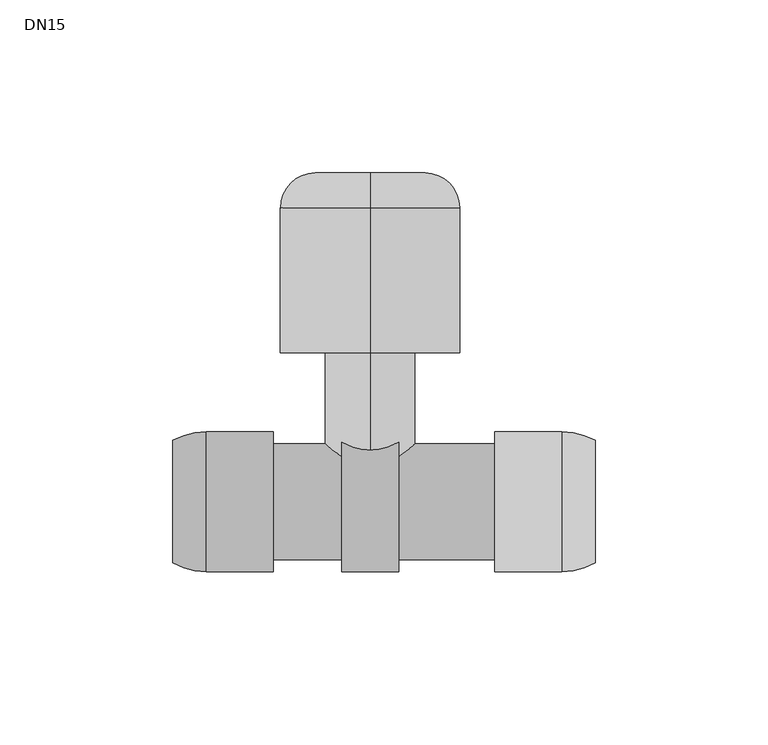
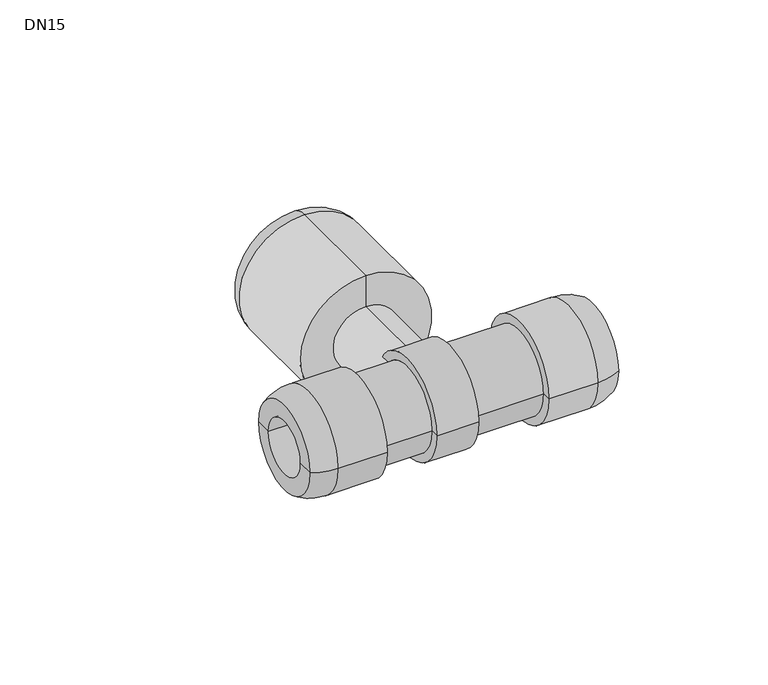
"""IFC4 building model written with IfcOpenShell, lengths in millimetres: valve geometry, Wavin_PipeAccessory_Hep2oStopcock : DN15."""

import ifcopenshell
import ifcopenshell.guid

model = None  # the IFC model being written
_history = None  # IfcOwnerHistory: only IFC2X3 demands one
_inside = {}  # id of a spatial element -> (the spatial element, [elements in it])
_under = {}  # id of a project, library or spatial element -> (it, [spatial elements below it])
_declared = {}  # id of a project -> (the project, [libraries it declares])
_typed = {}  # id of a type object -> (the type object, [elements of that type])
_made_of = {}  # id of a material, layer set ... -> (it, [elements and type objects made of it])


def new_model(schema):
    """Start an empty IFC model of exactly this schema.

    Asked for "IFC4X3", IfcOpenShell would pick the latest addendum, in which some entities
    have other attributes; the version numbers below select the first issue.
    IFC2X3 requires an IfcOwnerHistory on every rooted entity: one is made here for all.
    """
    global model, _history
    if schema == "IFC4X3":
        model = ifcopenshell.file(schema_version=(4, 3, 0, 0))
    else:
        model = ifcopenshell.file(schema=schema)
    _inside.clear()
    _under.clear()
    _declared.clear()
    _typed.clear()
    _made_of.clear()
    _history = None
    if model.schema == "IFC2X3":
        org = make("IfcOrganization", Name="unknown")
        user = make(
            "IfcPersonAndOrganization",
            ThePerson=make("IfcPerson", FamilyName="unknown"),
            TheOrganization=org,
        )
        app = make(
            "IfcApplication",
            ApplicationDeveloper=org,
            Version="unknown",
            ApplicationFullName="unknown",
            ApplicationIdentifier="unknown",
        )
        _history = make(
            "IfcOwnerHistory",
            OwningUser=user,
            OwningApplication=app,
            ChangeAction="ADDED",
            CreationDate=0,
        )
    return model


def make(cls, **values):
    """One entity of the class cls with the attributes given. An attribute that is None is left unset."""
    return model.create_entity(
        cls, **{name: value for name, value in values.items() if value is not None}
    )


def rooted(cls, **values):
    """An entity with a GlobalId (a new one), such as an element, a storey or a relation."""
    return make(cls, GlobalId=ifcopenshell.guid.new(), OwnerHistory=_history, **values)


def si_unit(unit_type, name, prefix=None):
    """IfcSIUnit, for example si_unit("LENGTHUNIT", "METRE", prefix="MILLI")."""
    return make("IfcSIUnit", UnitType=unit_type, Prefix=prefix, Name=name)


def assignment(units):
    """IfcUnitAssignment: the units of a project."""
    return None if units is None else make("IfcUnitAssignment", Units=units)


def point(xyz):
    """IfcCartesianPoint."""
    return None if xyz is None else make("IfcCartesianPoint", Coordinates=xyz)


def direction(xyz):
    """IfcDirection."""
    return None if xyz is None else make("IfcDirection", DirectionRatios=xyz)


def frame(location, z_axis=None, x_axis=None):
    """IfcAxis2Placement3D, a coordinate frame: its origin and axes. An axis left out is left unset."""
    return make(
        "IfcAxis2Placement3D",
        Location=point(location),
        Axis=direction(z_axis),
        RefDirection=direction(x_axis),
    )


def origin():
    """The frame at (0, 0, 0) with its axes left unset."""
    return frame((0.0, 0.0, 0.0))


def place(relative_to, where):
    """IfcLocalPlacement: puts the frame where relative to a parent placement (None: the world)."""
    return make(
        "IfcLocalPlacement", PlacementRelTo=relative_to, RelativePlacement=where
    )


def context(
    kind, dimensions, precision=None, world=None, true_north=None, identifier=None
):
    """IfcGeometricRepresentationContext, for example the 3D "Model" context."""
    return make(
        "IfcGeometricRepresentationContext",
        ContextIdentifier=identifier,
        ContextType=kind,
        CoordinateSpaceDimension=dimensions,
        Precision=precision,
        WorldCoordinateSystem=world,
        TrueNorth=true_north,
    )


def project(units=None, contexts=None):
    """IfcProject with its units and contexts."""
    return rooted(
        "IfcProject",
        Name="project",
        RepresentationContexts=contexts,
        UnitsInContext=assignment(units),
    )


def spatial(cls, under=None, at=None, **own):
    """A site, building, storey or space (cls), placed at a placement, below another one or the project."""
    s = rooted(cls, ObjectPlacement=at, **own)
    if under is not None:
        _under.setdefault(under.id(), (under, []))[1].append(s)
    return s


def polyline(points):
    """IfcPolyline through the points."""
    return make("IfcPolyline", Points=[point(p) for p in points])


def circle_curve(where, radius):
    """IfcCircle in the frame where."""
    return make("IfcCircle", Position=where, Radius=radius)


def ellipse_curve(where, semi_axis1, semi_axis2):
    """IfcEllipse in the frame where."""
    return make(
        "IfcEllipse", Position=where, SemiAxis1=semi_axis1, SemiAxis2=semi_axis2
    )


def trimmed(basis, trim1, trim2, sense, master):
    """IfcTrimmedCurve: the piece of a basis curve between two trims."""
    return make(
        "IfcTrimmedCurve",
        BasisCurve=basis,
        Trim1=trim1,
        Trim2=trim2,
        SenseAgreement=sense,
        MasterRepresentation=master,
    )


def shape(context_of_items, identifier, shape_type, items):
    """IfcShapeRepresentation: the items that make up one representation, for example the "Body"."""
    return make(
        "IfcShapeRepresentation",
        ContextOfItems=context_of_items,
        RepresentationIdentifier=identifier,
        RepresentationType=shape_type,
        Items=items,
    )


def source(mapping_origin, context_of_items, identifier, shape_type, items):
    """IfcRepresentationMap: a shape defined once, which mapped items show again and again."""
    return make(
        "IfcRepresentationMap",
        MappingOrigin=mapping_origin,
        MappedRepresentation=shape(context_of_items, identifier, shape_type, items),
    )


def transform(
    local_origin,
    x_axis=None,
    y_axis=None,
    z_axis=None,
    scale=None,
    scale2=None,
    scale3=None,
    uniform=True,
):
    """IfcCartesianTransformationOperator3D, or its non-uniform kind. x_axis, y_axis, z_axis: its Axis1, 2, 3."""
    if uniform:
        return make(
            "IfcCartesianTransformationOperator3D",
            Axis1=direction(x_axis),
            Axis2=direction(y_axis),
            LocalOrigin=point(local_origin),
            Scale=scale,
            Axis3=direction(z_axis),
        )
    return make(
        "IfcCartesianTransformationOperator3DnonUniform",
        Axis1=direction(x_axis),
        Axis2=direction(y_axis),
        LocalOrigin=point(local_origin),
        Scale=scale,
        Axis3=direction(z_axis),
        Scale2=scale2,
        Scale3=scale3,
    )


def mapped(mapping_source, mapping_target):
    """IfcMappedItem: shows the shape of a source again, moved by a transform."""
    return make(
        "IfcMappedItem", MappingSource=mapping_source, MappingTarget=mapping_target
    )


def made_of(thing, what):
    """Note that an element or type object is made of a material, layer set ...; save() writes the relation."""
    if what is not None:
        _made_of.setdefault(what.id(), (what, []))[1].append(thing)
    return thing


def element(
    cls,
    number,
    at=None,
    inside=None,
    cuts=None,
    type_object=None,
    material=None,
    context=None,
    identifier="Body",
    shape_type=None,
    held_by="IfcProductDefinitionShape",
    body=None,
    shapes=None,
    **own,
):
    """One element of the class cls, such as IfcWall. Its Tag is "e" and its number.

    at: its placement. inside: the storey or other place that contains it. cuts: it is an
    opening in that element (IfcRelVoidsElement). A single representation is given by context,
    identifier, shape_type and body (its items); several are given by shapes. held_by: the class
    of the entity that holds the representations. save() writes the other relations.
    """
    e = rooted(cls, Tag="e%d" % number, ObjectPlacement=at, **own)
    if body is not None:
        shapes = [shape(context, identifier, shape_type, body)]
    if shapes is not None:
        e.Representation = make(held_by, Representations=shapes)
    if inside is not None:
        _inside.setdefault(inside.id(), (inside, []))[1].append(e)
    if cuts is not None:
        rooted(
            "IfcRelVoidsElement", RelatingBuildingElement=cuts, RelatedOpeningElement=e
        )
    if type_object is not None:
        _typed.setdefault(type_object.id(), (type_object, []))[1].append(e)
    return made_of(e, material)


def aggregate(whole, parts):
    """IfcRelAggregates: a whole, such as a stair, and the parts it consists of."""
    return rooted("IfcRelAggregates", RelatingObject=whole, RelatedObjects=parts)


def save(model, path):
    """Write the relations noted so far, then the file.

    IfcRelAggregates (storeys below a building ...), IfcRelContainedInSpatialStructure (elements
    in a storey), IfcRelDefinesByType, IfcRelAssociatesMaterial and IfcRelDeclares: one each for
    every whole, place, type object, material and project.
    """
    for whole, parts in _under.values():
        aggregate(whole, parts)
    for where, things in _inside.values():
        rooted(
            "IfcRelContainedInSpatialStructure",
            RelatedElements=things,
            RelatingStructure=where,
        )
    for kind, things in _typed.values():
        rooted("IfcRelDefinesByType", RelatedObjects=things, RelatingType=kind)
    for what, things in _made_of.values():
        rooted("IfcRelAssociatesMaterial", RelatedObjects=things, RelatingMaterial=what)
    for by, libraries in _declared.values():
        rooted("IfcRelDeclares", RelatingContext=by, RelatedDefinitions=libraries)
    model.write(path)


def plane_surface(at):
    """IfcPlane: the flat surface through the origin of the frame at, square to its z axis."""
    return make("IfcPlane", Position=at)


def cylinder_surface(at, radius):
    """IfcCylindricalSurface: all points at the distance radius from the z axis of the frame at."""
    return make("IfcCylindricalSurface", Position=at, Radius=radius)


def revolved_surface(curve, axis_point, axis_direction):
    """IfcSurfaceOfRevolution: the curve turned about the line through axis_point along axis_direction."""
    return make(
        "IfcSurfaceOfRevolution",
        SweptCurve=make("IfcArbitraryOpenProfileDef", ProfileType="CURVE", Curve=curve),
        AxisPosition=make("IfcAxis1Placement", Location=point(axis_point), Axis=direction(axis_direction)),
    )


def advanced_brep(points, edges, surfaces, faces):
    """IfcAdvancedBrep: a solid bounded by faces that lie on surfaces and meet in shared edges.

    An edge is (start, end): straight between two places in points (the first is 0);
    or (start, end, curve); or (start, end, curve, False) where it runs against its curve.
    A face is (place in surfaces, loops), or (place, loops, False) where it looks against
    its surface's normal. A loop lists edges by number (the first is 1), with a minus sign
    where the edge is run from its end to its start. The first loop is the outer one.
    """
    corners = [point(p) for p in points]
    vertices = [make("IfcVertexPoint", VertexGeometry=c) for c in corners]
    made = []
    for start, end, *more in edges:
        made.append(
            make(
                "IfcEdgeCurve",
                EdgeStart=vertices[start],
                EdgeEnd=vertices[end],
                EdgeGeometry=more[0] if more else make("IfcPolyline", Points=[corners[start], corners[end]]),
                SameSense=more[1] if len(more) > 1 else True,
            )
        )
    hull = []
    for where, loops, *sense in faces:
        bounds = []
        for j, loop in enumerate(loops):
            ring = [make("IfcOrientedEdge", EdgeElement=made[abs(k) - 1], Orientation=k > 0) for k in loop]
            bounds.append(
                make(
                    "IfcFaceOuterBound" if j == 0 else "IfcFaceBound",
                    Bound=make("IfcEdgeLoop", EdgeList=ring),
                    Orientation=True,
                )
            )
        hull.append(make("IfcAdvancedFace", Bounds=bounds, FaceSurface=surfaces[where], SameSense=sense[0] if sense else True))
    return make("IfcAdvancedBrep", Outer=make("IfcClosedShell", CfsFaces=hull))


def dn15_406b94d7(model_context):
    return source(origin(), model_context, "Body", "AdvancedBrep", [
        advanced_brep(
        [(36.0, 11.0, 0.0), (36.0, -11.0, 0.0), (65.0, -11.0, 0.0), (65.0, 11.0, 0.0), (36.0, 20.2, 0.0), (36.0, -20.2, 0.0), (55.3333333, 20.2, 0.0), (55.3333333, -20.2, 0.0), (65.0, 17.7368418, 0.0), (65.0, -17.7368418, 0.0)],
        [
            (0, 1, circle_curve(frame((36.0, 0.0, 0.0), z_axis=(-1.0, 0.0, 0.0), x_axis=(0.0, -1.0000000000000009, 0.0)), 11.0)),
            (1, 2),
            (2, 3, circle_curve(frame((65.0, 0.0, 0.0), z_axis=(1.0, 0.0, 0.0), x_axis=(0.0, -1.0000000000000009, 0.0)), 11.0)),
            (3, 0),
            (1, 0, circle_curve(frame((36.0, 0.0, 0.0), z_axis=(-1.0, 0.0, 0.0), x_axis=(0.0, -1.0000000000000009, 0.0)), 11.0)),
            (3, 2, circle_curve(frame((65.0, 0.0, 0.0), z_axis=(1.0, 0.0, 0.0), x_axis=(0.0, -1.0000000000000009, 0.0)), 11.0)),
            (4, 5, circle_curve(frame((36.0, 0.0, 0.0), z_axis=(-1.0, 0.0, 0.0), x_axis=(0.0, -1.0000000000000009, 0.0)), 20.2)),
            (5, 1),
            (0, 4),
            (5, 4, circle_curve(frame((36.0, 0.0, 0.0), z_axis=(-1.0, 0.0, 0.0), x_axis=(0.0, -1.0000000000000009, 0.0)), 20.2)),
            (6, 7, circle_curve(frame((55.3333333, 0.0, 0.0), z_axis=(-1.0, 0.0, 0.0), x_axis=(0.0, -1.0000000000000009, 0.0)), 20.2)),
            (7, 5),
            (4, 6),
            (7, 6, circle_curve(frame((55.3333333, 0.0, 0.0), z_axis=(-1.0, 0.0, 0.0), x_axis=(0.0, -1.0000000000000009, 0.0)), 20.2)),
            (8, 9, circle_curve(frame((65.0, 0.0, 0.0), z_axis=(-1.0, 0.0, 0.0), x_axis=(0.0, -1.0000000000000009, 0.0)), 17.7368418)),
            (9, 7, circle_curve(frame((55.3333333, 0.0, 0.0), z_axis=(0.0, 0.0, -1.0000000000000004), x_axis=(-1.0000000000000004, 0.0, 0.0)), 20.2)),
            (6, 8, circle_curve(frame((55.3333333, 0.0, 0.0), z_axis=(0.0, 0.0, -1.0000000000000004), x_axis=(-1.0000000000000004, 0.0, 0.0)), 20.2)),
            (9, 8, circle_curve(frame((65.0, 0.0, 0.0), z_axis=(-1.0, 0.0, 0.0), x_axis=(0.0, -1.0000000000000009, 0.0)), 17.7368418)),
            (2, 9),
            (8, 3),
        ],
        [
            revolved_surface(polyline([(65.00000000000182, -11.00000000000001, 0.0), (36.00000000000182, -11.00000000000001, 0.0)]), (-1964.0, 0.0, 0.0), (1.0000000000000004, 0.0, 0.0)),
            plane_surface(frame((36.0, 0.0, 0.0), z_axis=(-1.0, 0.0, 0.0), x_axis=(0.0, -1.0, 0.0))),
            cylinder_surface(frame((-1964.0, 0.0, 0.0), z_axis=(1.0000000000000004, 0.0, 0.0), x_axis=(0.0, -1.0000000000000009, 0.0)), 20.2),
            revolved_surface(trimmed(ellipse_curve(frame((55.3333333, 0.0, 0.0), z_axis=(0.0, 0.0, 1.0000000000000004), x_axis=(-1.0000000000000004, 0.0, 0.0)), 20.2, 20.2), [point((55.3333333, -20.2, 0.0))], [point((65.0, -17.7368418, 0.0))], True, "CARTESIAN"), (-1964.0, 0.0, 0.0), (1.0000000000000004, 0.0, 0.0)),
            plane_surface(frame((65.0, 0.0, 0.0), z_axis=(1.0, 0.0, 0.0), x_axis=(0.0, -1.0, 0.0))),
        ],
        [
            (0, [[1, 2, 3, 4]]),
            (0, [[5, -4, 6, -2]]),
            (1, [[7, 8, -1, 9]]),
            (1, [[10, -9, -5, -8]]),
            (2, [[11, 12, -7, 13]]),
            (2, [[14, -13, -10, -12]]),
            (3, [[15, 16, -11, 17]]),
            (3, [[18, -17, -14, -16]]),
            (4, [[-3, 19, -15, 20]]),
            (4, [[-6, -20, -18, -19]]),
        ],
    ),
        advanced_brep(
        [(-28.0, -11.0, 0.0), (-28.0, 11.0, 0.0), (-57.0, 11.0, 0.0), (-57.0, -11.0, 0.0), (-28.0, -20.2, 0.0), (-28.0, 20.2, 0.0), (-47.3333333, -20.2, 0.0), (-47.3333333, 20.2, 0.0), (-57.0, -17.7368418, 0.0), (-57.0, 17.7368418, 0.0)],
        [
            (0, 1, circle_curve(frame((-28.0, 0.0, 0.0), z_axis=(1.0, 0.0, 0.0), x_axis=(0.0, 1.0, 0.0)), 11.0)),
            (1, 2),
            (2, 3, circle_curve(frame((-57.0, 0.0, 0.0), z_axis=(-1.0, 0.0, 0.0), x_axis=(0.0, 1.0, 0.0)), 11.0)),
            (3, 0),
            (1, 0, circle_curve(frame((-28.0, 0.0, 0.0), z_axis=(1.0, 0.0, 0.0), x_axis=(0.0, 1.0, 0.0)), 11.0)),
            (3, 2, circle_curve(frame((-57.0, 0.0, 0.0), z_axis=(-1.0, 0.0, 0.0), x_axis=(0.0, 1.0, 0.0)), 11.0)),
            (4, 5, circle_curve(frame((-28.0, 0.0, 0.0), z_axis=(1.0, 0.0, 0.0), x_axis=(0.0, 1.0, 0.0)), 20.2)),
            (5, 1),
            (0, 4),
            (5, 4, circle_curve(frame((-28.0, 0.0, 0.0), z_axis=(1.0, 0.0, 0.0), x_axis=(0.0, 1.0, 0.0)), 20.2)),
            (6, 7, circle_curve(frame((-47.3333333, 0.0, 0.0), z_axis=(1.0, 0.0, 0.0), x_axis=(0.0, 1.0, 0.0)), 20.2)),
            (7, 5),
            (4, 6),
            (7, 6, circle_curve(frame((-47.3333333, 0.0, 0.0), z_axis=(1.0, 0.0, 0.0), x_axis=(0.0, 1.0, 0.0)), 20.2)),
            (8, 9, circle_curve(frame((-57.0, 0.0, 0.0), z_axis=(1.0, 0.0, 0.0), x_axis=(0.0, 1.0, 0.0)), 17.7368418)),
            (9, 7, circle_curve(frame((-47.3333333, 0.0, 0.0), z_axis=(0.0, 0.0, -1.0), x_axis=(1.0, 0.0, 0.0)), 20.2)),
            (6, 8, circle_curve(frame((-47.3333333, 0.0, 0.0), z_axis=(0.0, 0.0, -1.0), x_axis=(1.0, 0.0, 0.0)), 20.2)),
            (9, 8, circle_curve(frame((-57.0, 0.0, 0.0), z_axis=(1.0, 0.0, 0.0), x_axis=(0.0, 1.0, 0.0)), 17.7368418)),
            (2, 9),
            (8, 3),
        ],
        [
            revolved_surface(polyline([(-57.0, 11.0, 0.0), (-28.0, 11.0, 0.0)]), (1972.0, 0.0, 0.0), (-1.0, 0.0, 0.0)),
            plane_surface(frame((-28.0, 0.0, 0.0), z_axis=(1.0, 0.0, 0.0), x_axis=(0.0, 1.0, 0.0))),
            cylinder_surface(frame((1972.0, 0.0, 0.0), z_axis=(-1.0, 0.0, 0.0), x_axis=(0.0, 1.0, 0.0)), 20.2),
            revolved_surface(trimmed(ellipse_curve(frame((-47.3333333, 0.0, 0.0), z_axis=(0.0, 0.0, 1.0), x_axis=(1.0, 0.0, 0.0)), 20.2, 20.2), [point((-47.3333333, 20.2, 0.0))], [point((-57.0, 17.7368418, 0.0))], True, "CARTESIAN"), (1972.0, 0.0, 0.0), (-1.0, 0.0, 0.0)),
            plane_surface(frame((-57.0, 0.0, 0.0), z_axis=(-1.0, 0.0, 0.0), x_axis=(0.0, 1.0, 0.0))),
        ],
        [
            (0, [[1, 2, 3, 4]]),
            (0, [[5, -4, 6, -2]]),
            (1, [[7, 8, -1, 9]]),
            (1, [[10, -9, -5, -8]]),
            (2, [[11, 12, -7, 13]]),
            (2, [[14, -13, -10, -12]]),
            (3, [[15, 16, -11, 17]]),
            (3, [[18, -17, -14, -16]]),
            (4, [[-3, 19, -15, 20]]),
            (4, [[-6, -20, -18, -19]]),
        ],
    ),
        advanced_brep(
        [(0.0, 85.0, -26.0), (0.0, 85.0, 26.0), (0.0, 95.0, 16.0), (0.0, 95.0, -16.0), (0.0, 43.0, -26.0), (0.0, 43.0, 26.0), (0.0, 43.0, -13.0), (0.0, 43.0, 13.0), (0.0, 0.0, -13.0), (0.0, 0.0, 13.0), (0.0, 0.0, 0.0), (0.0, 95.0, 0.0)],
        [
            (0, 1, circle_curve(frame((0.0, 85.0, 0.0), z_axis=(0.0, 1.0, 0.0), x_axis=(0.0, 0.0, 1.0)), 26.0)),
            (1, 2, circle_curve(frame((0.0, 85.0, 16.0), z_axis=(-1.0, 0.0, 0.0), x_axis=(0.0, 1.0, 0.0)), 10.0)),
            (2, 3, circle_curve(frame((0.0, 95.0, 0.0), z_axis=(0.0, -1.0, 0.0), x_axis=(0.0, 0.0, 1.0)), 16.0)),
            (3, 0, circle_curve(frame((0.0, 85.0, -16.0), z_axis=(-1.0, 0.0, 0.0), x_axis=(0.0, 1.0, 0.0)), 10.0)),
            (1, 0, circle_curve(frame((0.0, 85.0, 0.0), z_axis=(0.0, 1.0, 0.0), x_axis=(0.0, 0.0, 1.0)), 26.0)),
            (3, 2, circle_curve(frame((0.0, 95.0, 0.0), z_axis=(0.0, -1.0, 0.0), x_axis=(0.0, 0.0, 1.0)), 16.0)),
            (4, 5, circle_curve(frame((0.0, 43.0, 0.0), z_axis=(0.0, 1.0, 0.0), x_axis=(0.0, 0.0, 1.0)), 26.0)),
            (5, 1),
            (0, 4),
            (5, 4, circle_curve(frame((0.0, 43.0, 0.0), z_axis=(0.0, 1.0, 0.0), x_axis=(0.0, 0.0, 1.0)), 26.0)),
            (6, 7, circle_curve(frame((0.0, 43.0, 0.0), z_axis=(0.0, 1.0, 0.0), x_axis=(0.0, 0.0, 1.0)), 13.0)),
            (7, 5),
            (4, 6),
            (7, 6, circle_curve(frame((0.0, 43.0, 0.0), z_axis=(0.0, 1.0, 0.0), x_axis=(0.0, 0.0, 1.0)), 13.0)),
            (8, 9, circle_curve(frame((0.0, 0.0, 0.0), z_axis=(0.0, 1.0, 0.0), x_axis=(0.0, 0.0, 1.0)), 13.0)),
            (9, 7),
            (6, 8),
            (9, 8, circle_curve(frame((0.0, 0.0, 0.0), z_axis=(0.0, 1.0, 0.0), x_axis=(0.0, 0.0, 1.0)), 13.0)),
            (10, 9),
            (8, 10),
            (2, 11),
            (11, 3),
        ],
        [
            revolved_surface(trimmed(ellipse_curve(frame((0.0, 85.0, 16.0), z_axis=(1.0, 0.0, 0.0), x_axis=(0.0, 1.0, 0.0)), 10.0, 10.0), [point((0.0, 95.0, 16.0))], [point((0.0, 85.0, 26.0))], True, "CARTESIAN"), (0.0, 86.4203996, 0.0), (0.0, -1.0, 0.0)),
            cylinder_surface(frame((0.0, 86.4203996, 0.0), z_axis=(0.0, -1.0, 0.0), x_axis=(0.0, 0.0, 1.0)), 26.0),
            plane_surface(frame((0.0, 43.0, 0.0), z_axis=(0.0, -1.0, 0.0), x_axis=(0.0, 0.0, 1.0))),
            cylinder_surface(frame((0.0, 86.4203996, 0.0), z_axis=(0.0, -1.0, 0.0), x_axis=(0.0, 0.0, 1.0)), 13.0),
            plane_surface(frame((0.0, 0.0, 0.0), z_axis=(0.0, -1.0, 0.0), x_axis=(0.0, 0.0, 1.0))),
            plane_surface(frame((0.0, 95.0, 0.0), z_axis=(0.0, 1.0, 0.0), x_axis=(0.0, 0.0, 1.0))),
        ],
        [
            (0, [[1, 2, 3, 4]]),
            (0, [[5, -4, 6, -2]]),
            (1, [[7, 8, -1, 9]]),
            (1, [[10, -9, -5, -8]]),
            (2, [[11, 12, -7, 13]]),
            (2, [[14, -13, -10, -12]]),
            (3, [[15, 16, -11, 17]]),
            (3, [[18, -17, -14, -16]]),
            (4, [[19, -15, 20]]),
            (4, [[-20, -18, -19]]),
            (5, [[-3, 21, 22]]),
            (5, [[-6, -22, -21]]),
        ],
    ),
        advanced_brep(
        [(-28.0, 0.0, 0.0), (-28.0, 16.8, 0.0), (-28.0, -16.8, 0.0), (36.0, -16.8, 0.0), (36.0, 16.8, 0.0), (36.0, 0.0, 0.0), (8.2320085, -16.8, 0.0), (8.2320085, 16.8, 0.0), (8.2320085, -20.2, 0.0), (8.2320085, 20.2, 0.0), (-8.2320085, -20.2, 0.0), (-8.2320085, 20.2, 0.0), (-8.2320085, -16.8, 0.0), (-8.2320085, 16.8, 0.0)],
        [
            (0, 1),
            (1, 2, circle_curve(frame((-28.0, 0.0, 0.0), z_axis=(-1.0, 0.0, 0.0), x_axis=(0.0, 1.0, 0.0)), 16.8)),
            (2, 0),
            (2, 1, circle_curve(frame((-28.0, 0.0, 0.0), z_axis=(-1.0, 0.0, 0.0), x_axis=(0.0, 1.0, 0.0)), 16.8)),
            (3, 4, circle_curve(frame((36.0, 0.0, 0.0), z_axis=(1.0, 0.0, 0.0), x_axis=(0.0, 1.0, 0.0)), 16.8)),
            (4, 5),
            (5, 3),
            (4, 3, circle_curve(frame((36.0, 0.0, 0.0), z_axis=(1.0, 0.0, 0.0), x_axis=(0.0, 1.0, 0.0)), 16.8)),
            (6, 7, circle_curve(frame((8.2320085, 0.0, 0.0), z_axis=(1.0, 0.0, 0.0), x_axis=(0.0, 1.0, 0.0)), 16.8)),
            (7, 4),
            (3, 6),
            (7, 6, circle_curve(frame((8.2320085, 0.0, 0.0), z_axis=(1.0, 0.0, 0.0), x_axis=(0.0, 1.0, 0.0)), 16.8)),
            (8, 9, circle_curve(frame((8.2320085, 0.0, 0.0), z_axis=(1.0, 0.0, 0.0), x_axis=(0.0, 1.0, 0.0)), 20.2)),
            (9, 7),
            (6, 8),
            (9, 8, circle_curve(frame((8.2320085, 0.0, 0.0), z_axis=(1.0, 0.0, 0.0), x_axis=(0.0, 1.0, 0.0)), 20.2)),
            (10, 11, circle_curve(frame((-8.2320085, 0.0, 0.0), z_axis=(1.0, 0.0, 0.0), x_axis=(0.0, 1.0, 0.0)), 20.2)),
            (11, 9),
            (8, 10),
            (11, 10, circle_curve(frame((-8.2320085, 0.0, 0.0), z_axis=(1.0, 0.0, 0.0), x_axis=(0.0, 1.0, 0.0)), 20.2)),
            (12, 13, circle_curve(frame((-8.2320085, 0.0, 0.0), z_axis=(1.0, 0.0, 0.0), x_axis=(0.0, 1.0, 0.0)), 16.8)),
            (13, 11),
            (10, 12),
            (13, 12, circle_curve(frame((-8.2320085, 0.0, 0.0), z_axis=(1.0, 0.0, 0.0), x_axis=(0.0, 1.0, 0.0)), 16.8)),
            (1, 13),
            (12, 2),
        ],
        [
            plane_surface(frame((-28.0, 0.0, 0.0), z_axis=(-1.0, 0.0, 0.0), x_axis=(0.0, 1.0, 0.0))),
            plane_surface(frame((36.0, 0.0, 0.0), z_axis=(1.0, 0.0, 0.0), x_axis=(0.0, 1.0, 0.0))),
            cylinder_surface(frame((-28.0, 0.0, 0.0), z_axis=(-1.0, 0.0, 0.0), x_axis=(0.0, 1.0, 0.0)), 16.8),
            plane_surface(frame((8.2320085, 0.0, 0.0), z_axis=(1.0, 0.0, 0.0), x_axis=(0.0, 1.0, 0.0))),
            cylinder_surface(frame((-28.0, 0.0, 0.0), z_axis=(-1.0, 0.0, 0.0), x_axis=(0.0, 1.0, 0.0)), 20.2),
            plane_surface(frame((-8.2320085, 0.0, 0.0), z_axis=(-1.0, 0.0, 0.0), x_axis=(0.0, 1.0, 0.0))),
        ],
        [
            (0, [[1, 2, 3]]),
            (0, [[-3, 4, -1]]),
            (1, [[5, 6, 7]]),
            (1, [[8, -7, -6]]),
            (2, [[9, 10, -5, 11]]),
            (2, [[12, -11, -8, -10]]),
            (3, [[13, 14, -9, 15]]),
            (3, [[16, -15, -12, -14]]),
            (4, [[17, 18, -13, 19]]),
            (4, [[20, -19, -16, -18]]),
            (5, [[21, 22, -17, 23]]),
            (5, [[24, -23, -20, -22]]),
            (2, [[-2, 25, -21, 26]]),
            (2, [[-4, -26, -24, -25]]),
        ],
    ),
    ])


if __name__ == "__main__":
    model = new_model("IFC4")
    model_context = context("Model", 3, world=origin())
    ifc_project = project(units=[si_unit("LENGTHUNIT", "METRE", prefix="MILLI")], contexts=[model_context])
    site = spatial("IfcSite", under=ifc_project)
    building = spatial("IfcBuilding", under=site)
    placement = place(None, origin())
    dn15_shape = dn15_406b94d7(model_context)
    element("IfcValve", 1, ObjectType="Wavin_PipeAccessory_Hep2oStopcock : DN15", at=placement, inside=building, context=model_context, shape_type="MappedRepresentation", body=[
        mapped(dn15_shape, transform((0.0, 0.0, 0.0), x_axis=(1.0, 0.0, 0.0), y_axis=(0.0, 1.0, 0.0), z_axis=(0.0, 0.0, 1.0))),
    ])
    save(model, "model.ifc")
